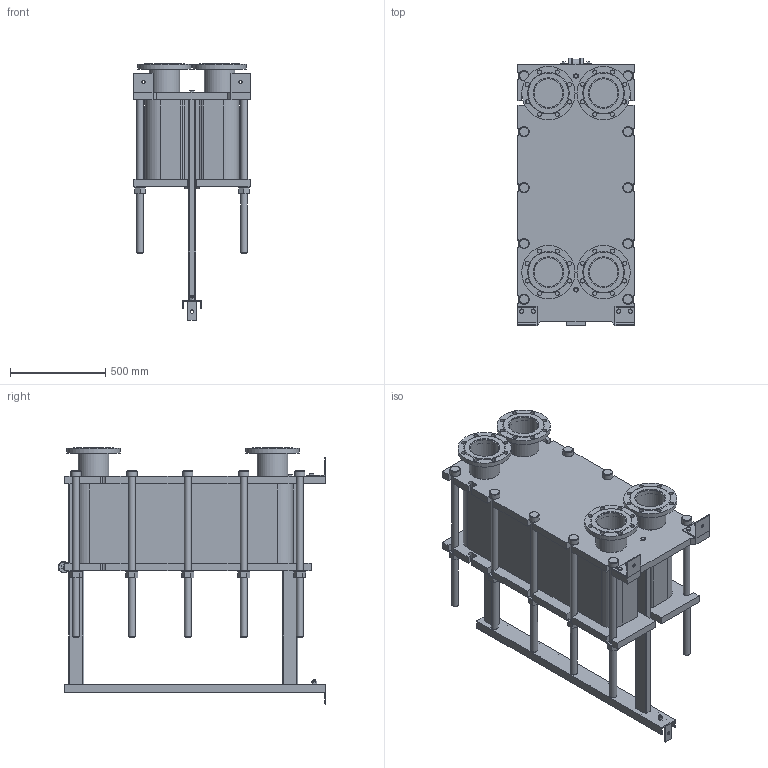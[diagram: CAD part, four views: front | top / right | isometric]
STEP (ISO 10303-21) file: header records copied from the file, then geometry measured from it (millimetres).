
FILE_DESCRIPTION(/* description */ (''),/* implementation_level */ '2;1');
FILE_NAME(/* name */ 'C:\Users\zhuro\Desktop\ENCO\TO\ЭН-041\ЭН-0,5-041-121-1.stp',/* time_stamp */ '2022-06-06T10:59:42+03:00',/* author */ ('zhuro'),/* organization */ (''),/* preprocessor_version */ 'ST-DEVELOPER v18.1',/* originating_system */ 'Autodesk Inventor 2022',/* authorisation */ '');
FILE_SCHEMA (('AUTOMOTIVE_DESIGN { 1 0 10303 214 3 1 1 }'));
Length unit declared in the file: millimetre
Products named in the file (1): ЭН-0,5-041-121-1
Bounding box: 610 x 1406.5 x 1347.5 mm (x, y, z)
Volume: 316738317.7 mm3; surface area: 9487543.9 mm2
Topology: 52 solids, 52 shells, 711 faces, 1696 edges, 1094 vertices
Faces by surface type: plane 487, cylinder 177, cone 41, torus 6
Full cylindrical faces by diameter (mm): 8 x4, 10 x2, 16 x8, 18 x3, 22 x32, 36 x24, 50 x1, 54 x10, 60 x12, 151 x4, 161 x8, 280 x4
Entity records: 22667 total; most frequent: CARTESIAN_POINT 5230, DIRECTION 3644, ORIENTED_EDGE 3392, EDGE_CURVE 1696, AXIS2_PLACEMENT_3D 1272, LINE 1100, VECTOR 1100, VERTEX_POINT 1094
